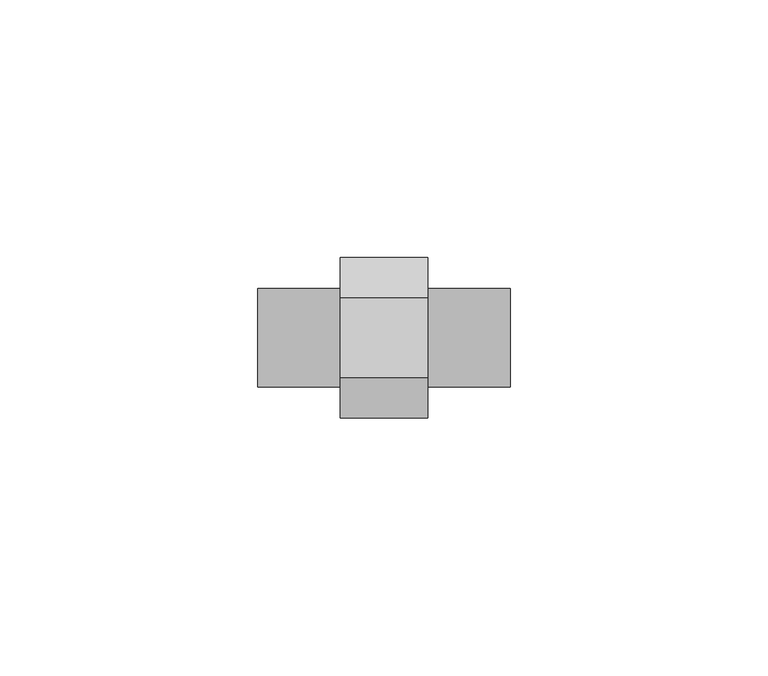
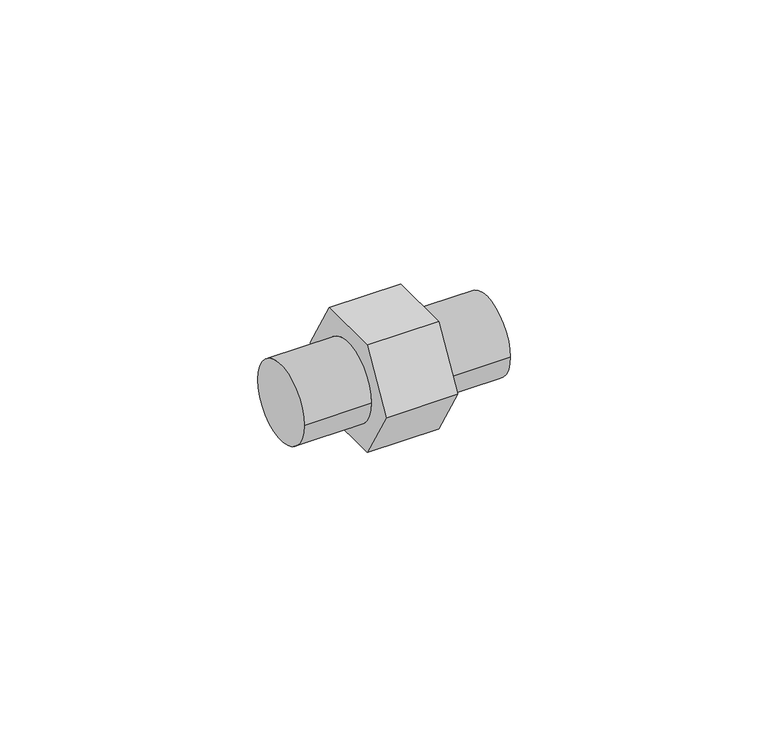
"""IFC4 building model written with IfcOpenShell, lengths in millimetres: pipe fitting geometry, 01011009 : Casquilho Duplo."""

from ifc_helpers import new_model, si_unit, frame, origin, place, context, project, spatial, circle_curve, source, transform, mapped, element, save
from ifc_brep_helpers import plane_surface, cylinder_surface, advanced_brep


def pipe_fitting_95aa66ad(model_context):
    return source(origin(), model_context, "Body", "AdvancedBrep", [
        advanced_brep(
        [(8.5, -7.7942286, 13.5), (8.5, -15.5884573, 0.0), (8.5, -7.7942286, -13.5), (8.5, 7.7942286, -13.5), (8.5, 15.5884573, 0.0), (8.5, 7.7942286, 13.5), (8.5, -9.525, 0.0), (8.5, 9.525, 0.0), (-8.5, -7.7942286, 13.5), (-8.5, 7.7942286, 13.5), (-8.5, 15.5884573, 0.0), (-8.5, 7.7942286, -13.5), (-8.5, -7.7942286, -13.5), (-8.5, -15.5884573, 0.0), (-8.5, 9.525, 0.0), (-8.5, -9.525, 0.0), (-24.5, -9.525, 0.0), (-24.5, 9.525, 0.0), (24.5, -9.525, 0.0), (24.5, 9.525, 0.0)],
        [
            (0, 1),
            (1, 2),
            (2, 3),
            (3, 4),
            (4, 5),
            (5, 0),
            (6, 7, circle_curve(frame((8.5, 0.0, 0.0), z_axis=(-1.0, 0.0, 0.0), x_axis=(0.0, 1.0, 0.0)), 9.525)),
            (7, 6, circle_curve(frame((8.5, 0.0, 0.0), z_axis=(-1.0, 0.0, 0.0), x_axis=(0.0, 1.0, 0.0)), 9.525)),
            (8, 9),
            (9, 10),
            (10, 11),
            (11, 12),
            (12, 13),
            (13, 8),
            (14, 15, circle_curve(frame((-8.5, 0.0, 0.0), z_axis=(1.0, 0.0, 0.0), x_axis=(0.0, 1.0, 0.0)), 9.525)),
            (15, 14, circle_curve(frame((-8.5, 0.0, 0.0), z_axis=(1.0, 0.0, 0.0), x_axis=(0.0, 1.0, 0.0)), 9.525)),
            (0, 8),
            (13, 1),
            (12, 2),
            (11, 3),
            (10, 4),
            (9, 5),
            (16, 17, circle_curve(frame((-24.5, 0.0, 0.0), z_axis=(-1.0, 0.0, 0.0), x_axis=(0.0, 1.0, 0.0)), 9.525)),
            (17, 16, circle_curve(frame((-24.5, 0.0, 0.0), z_axis=(-1.0, 0.0, 0.0), x_axis=(0.0, 1.0, 0.0)), 9.525)),
            (18, 19, circle_curve(frame((24.5, 0.0, 0.0), z_axis=(1.0, 0.0, 0.0), x_axis=(0.0, 1.0, 0.0)), 9.525)),
            (19, 18, circle_curve(frame((24.5, 0.0, 0.0), z_axis=(1.0, 0.0, 0.0), x_axis=(0.0, 1.0, 0.0)), 9.525)),
            (16, 15),
            (14, 17),
            (19, 7),
            (6, 18),
        ],
        [
            plane_surface(frame((8.5, -7.7942286, 13.5), z_axis=(1.0, 0.0, 0.0), x_axis=(0.0, -0.5000000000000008, -0.8660254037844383))),
            plane_surface(frame((-8.5, -7.7942286, 13.5), z_axis=(-1.0, 0.0, 0.0), x_axis=(0.0, 0.5000000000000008, 0.8660254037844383))),
            plane_surface(frame((8.5, -7.7942286, 13.5), z_axis=(0.0, -0.8660254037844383, 0.5000000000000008), x_axis=(-1.0, 0.0, 0.0))),
            plane_surface(frame((8.5, -15.5884573, 0.0), z_axis=(0.0, -0.8660254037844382, -0.500000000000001), x_axis=(-1.0, 0.0, 0.0))),
            plane_surface(frame((8.5, -7.7942286, -13.5), z_axis=(0.0, 0.0, -1.0), x_axis=(-1.0, 0.0, 0.0))),
            plane_surface(frame((8.5, 7.7942286, -13.5), z_axis=(0.0, 0.8660254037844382, -0.5000000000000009), x_axis=(-1.0, 0.0, 0.0))),
            plane_surface(frame((8.5, 15.5884573, 0.0), z_axis=(0.0, 0.8660254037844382, 0.500000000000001), x_axis=(-1.0, 0.0, 0.0))),
            plane_surface(frame((8.5, 7.7942286, 13.5), z_axis=(0.0, 0.0, 1.0), x_axis=(-1.0, 0.0, 0.0))),
            plane_surface(frame((-24.5, 0.0, 0.0), z_axis=(-1.0, 0.0, 0.0), x_axis=(0.0, 0.0, 1.0))),
            plane_surface(frame((24.5, 0.0, 0.0), z_axis=(1.0, 0.0, 0.0), x_axis=(0.0, 0.0, 1.0))),
            cylinder_surface(frame((-24.5, 0.0, 0.0), z_axis=(-1.0, 0.0, 0.0), x_axis=(0.0, 1.0, 0.0)), 9.525),
        ],
        [
            (0, [[1, 2, 3, 4, 5, 6], [7, 8]]),
            (1, [[9, 10, 11, 12, 13, 14], [15, 16]]),
            (2, [[-1, 17, -14, 18]]),
            (3, [[-2, -18, -13, 19]]),
            (4, [[-3, -19, -12, 20]]),
            (5, [[-4, -20, -11, 21]]),
            (6, [[-5, -21, -10, 22]]),
            (7, [[-6, -22, -9, -17]]),
            (8, [[23, 24]]),
            (9, [[25, 26]]),
            (10, [[-23, 27, -15, 28]]),
            (10, [[-26, 29, -7, 30]]),
            (10, [[-24, -28, -16, -27]]),
            (10, [[-25, -30, -8, -29]]),
        ],
    ),
    ])


if __name__ == "__main__":
    model = new_model("IFC4")
    model_context = context("Model", 3, world=origin())
    ifc_project = project(units=[si_unit("LENGTHUNIT", "METRE", prefix="MILLI")], contexts=[model_context])
    site = spatial("IfcSite", under=ifc_project)
    building = spatial("IfcBuilding", under=site)
    placement = place(None, origin())
    pipe_fitting_shape = pipe_fitting_95aa66ad(model_context)
    element("IfcPipeFitting", 1, ObjectType="01011009 : Casquilho Duplo", at=placement, inside=building, context=model_context, shape_type="MappedRepresentation", body=[
        mapped(pipe_fitting_shape, transform((0.0, 0.0, 0.0), x_axis=(1.0, 0.0, 0.0), y_axis=(0.0, 1.0, 0.0), z_axis=(0.0, 0.0, 1.0))),
    ])
    save(model, "model.ifc")
